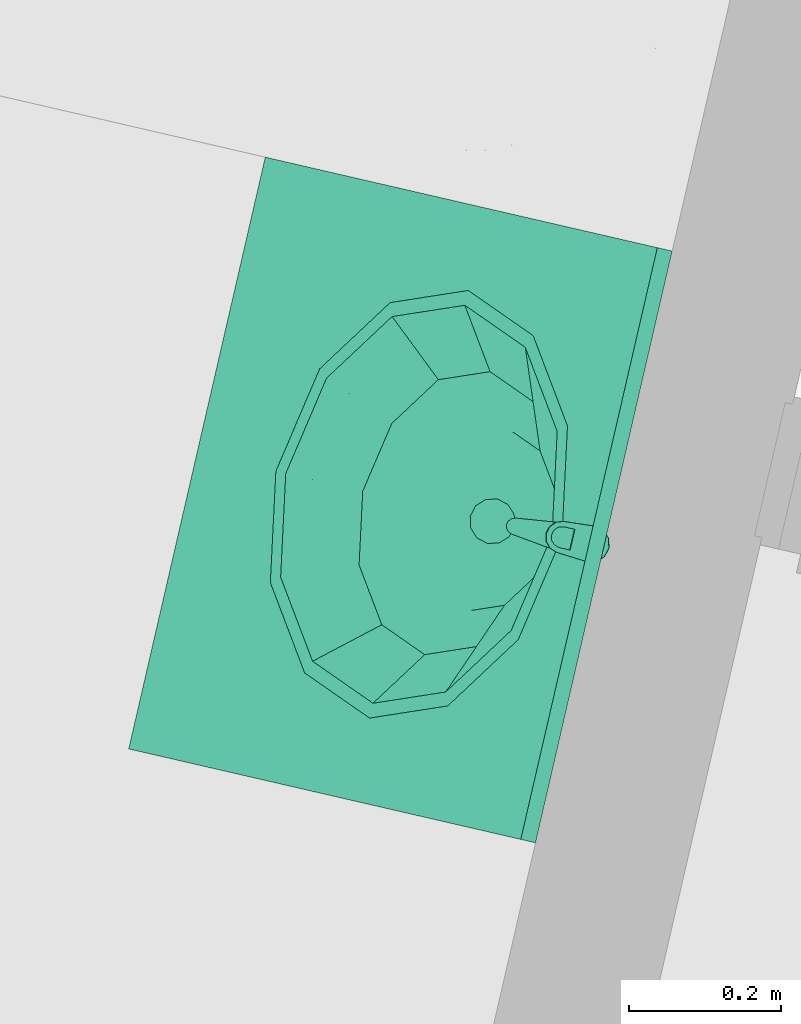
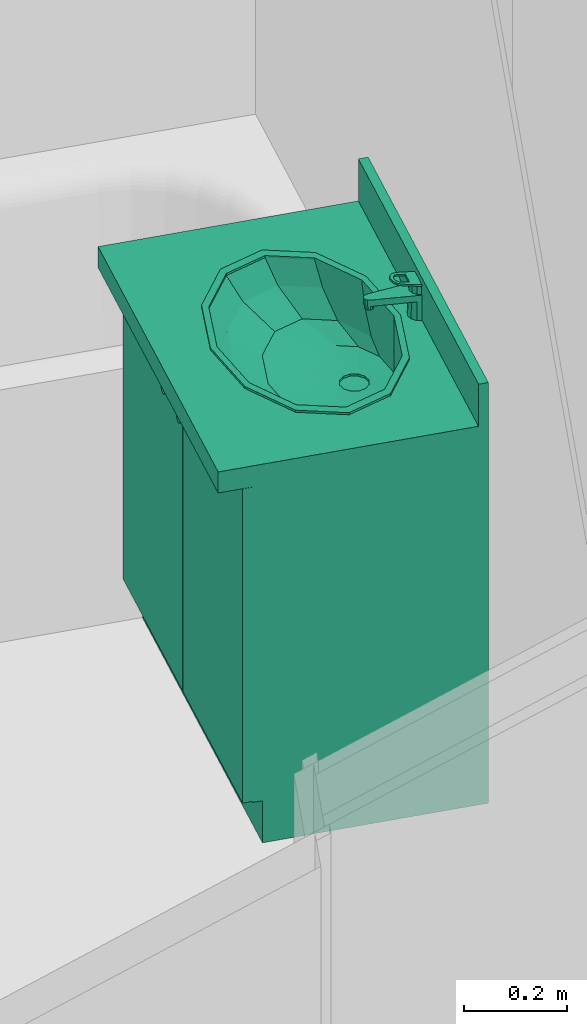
# One storey, part 44 of 62: 1 flow terminal.
"""IFC2X3 building model written with IfcOpenShell, lengths in metres."""

from ifc_helpers import new_model, entity, si_unit, converted_unit, derived_unit, money_unit, direction, frame, origin_with_axes, place, context, subcontext, project, spatial, open_shell, faceted_brep, surface_model, source, transform, mapped, type_object, element, save


model = new_model("IFC2X3")

# Units and contexts
model_context = context("Model", 3, precision=1e-05, world=origin_with_axes(), true_north=direction((0.0, 1.0)))
body_context = subcontext(model_context, "Body", "Model", "MODEL_VIEW")
ifc_project = project(units=[si_unit("LENGTHUNIT", "METRE"), si_unit("AREAUNIT", "SQUARE_METRE"), si_unit("VOLUMEUNIT", "CUBIC_METRE"), converted_unit("PLANEANGLEUNIT", "DEGREE", entity("IfcPlaneAngleMeasure", 0.0174532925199), si_unit("PLANEANGLEUNIT", "RADIAN"), dimensions=[0, 0, 0, 0, 0, 0, 0]), si_unit("SOLIDANGLEUNIT", "STERADIAN"), money_unit("EUR"), converted_unit("TIMEUNIT", "Year", entity("IfcTimeMeasure", 31556926.0), si_unit("TIMEUNIT", "SECOND"), dimensions=[0, 0, 1, 0, 0, 0, 0]), si_unit("MASSUNIT", "GRAM", prefix="KILO"), si_unit("THERMODYNAMICTEMPERATUREUNIT", "DEGREE_CELSIUS"), si_unit("LUMINOUSINTENSITYUNIT", "LUMEN"), si_unit("ENERGYUNIT", "JOULE", prefix="MEGA"), derived_unit("THERMALCONDUCTANCEUNIT", [(si_unit("POWERUNIT", "WATT"), 1), (si_unit("LENGTHUNIT", "METRE"), -1), (si_unit("THERMODYNAMICTEMPERATUREUNIT", "KELVIN"), -1)]), derived_unit("SPECIFICHEATCAPACITYUNIT", [(si_unit("ENERGYUNIT", "JOULE"), 1), (si_unit("MASSUNIT", "GRAM", prefix="KILO"), -1), (si_unit("THERMODYNAMICTEMPERATUREUNIT", "KELVIN"), -1)]), derived_unit("MASSDENSITYUNIT", [(si_unit("MASSUNIT", "GRAM", prefix="KILO"), 1), (si_unit("VOLUMEUNIT", "CUBIC_METRE"), -1)])], contexts=[model_context])

# Site, building, storey
site_placement = place(None, origin_with_axes())
site = spatial("IfcSite", under=ifc_project, at=site_placement, Name="Site", CompositionType="ELEMENT")
building_placement = place(site_placement, origin_with_axes())
building = spatial("IfcBuilding", under=site, at=building_placement, Name="Bâtiment", CompositionType="ELEMENT")
storey_placement = place(building_placement, frame((0.0, 0.0, 8.16), z_axis=(0.0, 0.0, 1.0), x_axis=(1.0, 0.0, 0.0)))
storey = spatial("IfcBuildingStorey", under=building, at=storey_placement, Name="R+3", CompositionType="ELEMENT", Elevation=8.16)

# Flow terminal
sanitary_terminal_type = type_object("IfcSanitaryTerminalType", Name="Lavabo sur meuble 23", PredefinedType="NOTDEFINED")
shared_shape = source(origin_with_axes(), body_context, "Body", "SurfaceModel", [
    faceted_brep([(0.0, 0.09, 0.0), (0.0, 0.09, 0.1), (-0.8, 0.09, 0.1), (-0.8, 0.09, 0.0), (0.0, 0.55, 0.0), (0.0, 0.55, 0.1), (-0.8, 0.55, 0.1), (-0.8, 0.55, 0.0)], [[[0, 1, 2, 3]], [[4, 5, 1, 0]], [[1, 5, 6, 2]], [[3, 2, 6, 7]], [[0, 3, 7, 4]], [[7, 6, 5, 4]]]),
    faceted_brep([(0.0, 0.07, 0.1), (0.0, 0.07, 0.12), (-0.02, 0.07, 0.12), (-0.02, 0.07, 0.1), (0.0, 0.55, 0.1), (0.0, 0.55, 0.12), (-0.02, 0.55, 0.12), (-0.78, 0.55, 0.12), (-0.8, 0.55, 0.12), (-0.8, 0.07, 0.12), (-0.78, 0.07, 0.12), (-0.78, 0.07, 0.1), (-0.8, 0.07, 0.1), (-0.8, 0.55, 0.1), (-0.78, 0.55, 0.1), (-0.02, 0.55, 0.1)], [[[0, 1, 2, 3]], [[4, 5, 1, 0]], [[1, 5, 6, 7, 8, 9, 10, 2]], [[3, 2, 10, 11]], [[0, 3, 11, 12, 13, 14, 15, 4]], [[15, 6, 5, 4]], [[14, 7, 6, 15]], [[13, 8, 7, 14]], [[12, 9, 8, 13]], [[11, 10, 9, 12]]]),
    faceted_brep([(0.0, 0.07, 0.12), (0.0, 0.07, 0.85), (-0.02, 0.07, 0.85), (-0.02, 0.07, 0.12), (0.0, 0.55, 0.12), (0.0, 0.55, 0.85), (-0.8, 0.55, 0.85), (-0.8, 0.07, 0.85), (-0.78, 0.07, 0.85), (-0.78, 0.53, 0.85), (-0.02, 0.53, 0.85), (-0.02, 0.53, 0.12), (-0.78, 0.53, 0.12), (-0.78, 0.07, 0.12), (-0.8, 0.07, 0.12), (-0.8, 0.55, 0.12)], [[[0, 1, 2, 3]], [[4, 5, 1, 0]], [[1, 5, 6, 7, 8, 9, 10, 2]], [[3, 2, 10, 11]], [[0, 3, 11, 12, 13, 14, 15, 4]], [[15, 6, 5, 4]], [[14, 7, 6, 15]], [[13, 8, 7, 14]], [[12, 9, 8, 13]], [[11, 10, 9, 12]]]),
    faceted_brep([(-0.78, 0.07, 0.323333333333), (-0.78, 0.07, 0.343333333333), (-0.78, 0.53, 0.343333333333), (-0.78, 0.53, 0.323333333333), (-0.02, 0.07, 0.323333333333), (-0.02, 0.07, 0.343333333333), (-0.02, 0.53, 0.343333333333), (-0.02, 0.53, 0.323333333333)], [[[0, 1, 2, 3]], [[4, 5, 1, 0]], [[1, 5, 6, 2]], [[3, 2, 6, 7]], [[0, 3, 7, 4]], [[7, 6, 5, 4]]]),
    faceted_brep([(-0.78, 0.07, 0.566666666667), (-0.78, 0.07, 0.586666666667), (-0.78, 0.53, 0.586666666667), (-0.78, 0.53, 0.566666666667), (-0.02, 0.07, 0.566666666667), (-0.02, 0.07, 0.586666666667), (-0.02, 0.53, 0.586666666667), (-0.02, 0.53, 0.566666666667)], [[[0, 1, 2, 3]], [[4, 5, 1, 0]], [[1, 5, 6, 2]], [[3, 2, 6, 7]], [[0, 3, 7, 4]], [[7, 6, 5, 4]]]),
    faceted_brep([(0.0, 0.55, 0.85), (0.0, 0.0, 0.85), (-0.8, 0.0, 0.85), (-0.8, 0.55, 0.85), (-0.535, 0.144115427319, 0.85), (-0.4, 0.12, 0.85), (-0.265, 0.144115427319, 0.85), (-0.166173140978, 0.21, 0.85), (-0.13, 0.3, 0.85), (-0.166173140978, 0.39, 0.85), (-0.265, 0.455884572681, 0.85), (-0.4, 0.48, 0.85), (-0.535, 0.455884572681, 0.85), (-0.633826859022, 0.39, 0.85), (-0.67, 0.3, 0.85), (-0.633826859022, 0.21, 0.85), (0.0, 0.55, 0.9), (0.0, 0.0, 0.9), (-0.8, 0.0, 0.9), (-0.8, 0.55, 0.9), (-0.4, 0.12, 0.9), (-0.535, 0.144115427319, 0.9), (-0.265, 0.144115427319, 0.9), (-0.166173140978, 0.21, 0.9), (-0.13, 0.3, 0.9), (-0.166173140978, 0.39, 0.9), (-0.265, 0.455884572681, 0.9), (-0.4, 0.48, 0.9), (-0.535, 0.455884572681, 0.9), (-0.633826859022, 0.39, 0.9), (-0.67, 0.3, 0.9), (-0.633826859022, 0.21, 0.9)], [[[0, 1, 2, 3], [4, 5, 6, 7, 8, 9, 10, 11, 12, 13, 14, 15]], [[1, 0, 16, 17]], [[2, 1, 17, 18]], [[3, 2, 18, 19]], [[0, 3, 19, 16]], [[20, 5, 4, 21]], [[22, 6, 5, 20]], [[23, 7, 6, 22]], [[24, 8, 7, 23]], [[25, 9, 8, 24]], [[26, 10, 9, 25]], [[27, 11, 10, 26]], [[28, 12, 11, 27]], [[29, 13, 12, 28]], [[30, 14, 13, 29]], [[31, 15, 14, 30]], [[21, 4, 15, 31]], [[18, 17, 16, 19], [28, 27, 26, 25, 24, 23, 22, 20, 21, 31, 30, 29]]]),
    faceted_brep([(0.0, 0.53, 0.9), (0.0, 0.53, 1.0), (-0.8, 0.53, 1.0), (-0.8, 0.53, 0.9), (0.0, 0.55, 0.9), (0.0, 0.55, 1.0), (-0.8, 0.55, 1.0), (-0.8, 0.55, 0.9)], [[[0, 1, 2, 3]], [[4, 5, 1, 0]], [[1, 5, 6, 2]], [[3, 2, 6, 7]], [[0, 3, 7, 4]], [[7, 6, 5, 4]]]),
    faceted_brep([(-0.689, 0.3, 0.905), (-0.650281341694, 0.396691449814, 0.905), (-0.650281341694, 0.396691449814, 0.9), (-0.689, 0.3, 0.9), (-0.650281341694, 0.203308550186, 0.905), (-0.5445, 0.132525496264, 0.905), (-0.4, 0.106617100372, 0.905), (-0.2555, 0.132525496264, 0.905), (-0.149718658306, 0.203308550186, 0.905), (-0.111, 0.3, 0.905), (-0.149718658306, 0.396691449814, 0.905), (-0.2555, 0.467474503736, 0.905), (-0.4, 0.493382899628, 0.905), (-0.5445, 0.467474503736, 0.905), (-0.669, 0.3, 0.905), (-0.632960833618, 0.39, 0.905), (-0.5345, 0.455884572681, 0.905), (-0.4, 0.48, 0.905), (-0.2655, 0.455884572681, 0.905), (-0.167039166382, 0.39, 0.905), (-0.131, 0.3, 0.905), (-0.167039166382, 0.21, 0.905), (-0.2655, 0.144115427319, 0.905), (-0.4, 0.12, 0.905), (-0.5345, 0.144115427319, 0.905), (-0.632960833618, 0.21, 0.905), (-0.5445, 0.467474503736, 0.9), (-0.4, 0.493382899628, 0.9), (-0.2555, 0.467474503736, 0.9), (-0.149718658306, 0.396691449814, 0.9), (-0.111, 0.3, 0.9), (-0.149718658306, 0.203308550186, 0.9), (-0.2555, 0.132525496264, 0.9), (-0.4, 0.106617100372, 0.9), (-0.5445, 0.132525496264, 0.9), (-0.650281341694, 0.203308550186, 0.9), (-0.669, 0.3, 0.9), (-0.632960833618, 0.21, 0.9), (-0.5345, 0.144115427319, 0.9), (-0.4, 0.12, 0.9), (-0.2655, 0.144115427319, 0.9), (-0.167039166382, 0.21, 0.9), (-0.131, 0.3, 0.9), (-0.167039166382, 0.39, 0.9), (-0.2655, 0.455884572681, 0.9), (-0.4, 0.48, 0.9), (-0.5345, 0.455884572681, 0.9), (-0.632960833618, 0.39, 0.9)], [[[0, 1, 2, 3]], [[0, 4, 5, 6, 7, 8, 9, 10, 11, 12, 13, 1], [14, 15, 16, 17, 18, 19, 20, 21, 22, 23, 24, 25]], [[1, 13, 26, 2]], [[3, 2, 26, 27, 28, 29, 30, 31, 32, 33, 34, 35], [36, 37, 38, 39, 40, 41, 42, 43, 44, 45, 46, 47]], [[4, 0, 3, 35]], [[5, 4, 35, 34]], [[6, 5, 34, 33]], [[7, 6, 33, 32]], [[8, 7, 32, 31]], [[9, 8, 31, 30]], [[10, 9, 30, 29]], [[11, 10, 29, 28]], [[12, 11, 28, 27]], [[13, 12, 27, 26]], [[15, 14, 36, 47]], [[16, 15, 47, 46]], [[17, 16, 46, 45]], [[18, 17, 45, 44]], [[19, 18, 44, 43]], [[20, 19, 43, 42]], [[21, 20, 42, 41]], [[22, 21, 41, 40]], [[23, 22, 40, 39]], [[24, 23, 39, 38]], [[25, 24, 38, 37]], [[14, 25, 37, 36]]]),
    surface_model("IfcShellBasedSurfaceModel", [(-0.4, 0.48, 0.9), (-0.5345, 0.455884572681, 0.9), (-0.52105, 0.458296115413, 0.848), (-0.4, 0.48, 0.848), (-0.632960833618, 0.39, 0.9), (-0.609664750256, 0.399, 0.848), (-0.2655, 0.455884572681, 0.9), (-0.27895, 0.458296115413, 0.848), (-0.669, 0.3, 0.9), (-0.6421, 0.318, 0.848), (-0.167039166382, 0.39, 0.9), (-0.190335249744, 0.399, 0.848), (-0.632960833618, 0.21, 0.9), (-0.609664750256, 0.237, 0.848), (-0.131, 0.3, 0.9), (-0.1579, 0.318, 0.848), (-0.5345, 0.144115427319, 0.9), (-0.52105, 0.177703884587, 0.848), (-0.167039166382, 0.21, 0.9), (-0.190335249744, 0.237, 0.848), (-0.4, 0.12, 0.9), (-0.4, 0.156, 0.848), (-0.2655, 0.144115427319, 0.9), (-0.27895, 0.177703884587, 0.848)], [open_shell([[[0, 1, 2, 3]], [[1, 4, 5, 2]], [[6, 0, 3, 7]], [[4, 8, 9, 5]], [[10, 6, 7, 11]], [[8, 12, 13, 9]], [[14, 10, 11, 15]], [[12, 16, 17, 13]], [[18, 14, 15, 19]], [[16, 20, 21, 17]], [[22, 18, 19, 23]], [[20, 22, 23, 21]]])]),
    surface_model("IfcShellBasedSurfaceModel", [(-0.4, 0.48, 0.848), (-0.52105, 0.458296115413, 0.848), (-0.4956295, 0.462853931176, 0.796), (-0.4, 0.48, 0.796), (-0.609664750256, 0.399, 0.848), (-0.565635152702, 0.41601, 0.796), (-0.27895, 0.458296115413, 0.848), (-0.3043705, 0.462853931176, 0.796), (-0.6421, 0.318, 0.848), (-0.591259, 0.35202, 0.796), (-0.190335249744, 0.399, 0.848), (-0.234364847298, 0.41601, 0.796), (-0.609664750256, 0.237, 0.848), (-0.565635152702, 0.28803, 0.796), (-0.1579, 0.318, 0.848), (-0.208741, 0.35202, 0.796), (-0.52105, 0.177703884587, 0.848), (-0.4956295, 0.241186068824, 0.796), (-0.190335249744, 0.237, 0.848), (-0.234364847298, 0.28803, 0.796), (-0.4, 0.156, 0.848), (-0.4, 0.22404, 0.796), (-0.27895, 0.177703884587, 0.848), (-0.3043705, 0.241186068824, 0.796)], [open_shell([[[0, 1, 2, 3]], [[1, 4, 5, 2]], [[6, 0, 3, 7]], [[4, 8, 9, 5]], [[10, 6, 7, 11]], [[8, 12, 13, 9]], [[14, 10, 11, 15]], [[12, 16, 17, 13]], [[18, 14, 15, 19]], [[16, 20, 21, 17]], [[22, 18, 19, 23]], [[20, 22, 23, 21]]])]),
    surface_model("IfcShellBasedSurfaceModel", [(-0.4, 0.48, 0.796), (-0.4956295, 0.462853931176, 0.796), (-0.460246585, 0.469197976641, 0.77), (-0.4, 0.48, 0.77), (-0.565635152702, 0.41601, 0.796), (-0.504350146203, 0.4396863, 0.77), (-0.3043705, 0.462853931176, 0.796), (-0.339753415, 0.469197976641, 0.77), (-0.591259, 0.35202, 0.796), (-0.52049317, 0.3993726, 0.77), (-0.234364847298, 0.41601, 0.796), (-0.295649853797, 0.4396863, 0.77), (-0.565635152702, 0.28803, 0.796), (-0.504350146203, 0.3590589, 0.77), (-0.208741, 0.35202, 0.796), (-0.27950683, 0.3993726, 0.77), (-0.4956295, 0.241186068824, 0.796), (-0.460246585, 0.329547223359, 0.77), (-0.234364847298, 0.28803, 0.796), (-0.295649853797, 0.3590589, 0.77), (-0.4, 0.22404, 0.796), (-0.4, 0.3187452, 0.77), (-0.3043705, 0.241186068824, 0.796), (-0.339753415, 0.329547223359, 0.77)], [open_shell([[[0, 1, 2, 3]], [[1, 4, 5, 2]], [[6, 0, 3, 7]], [[4, 8, 9, 5]], [[10, 6, 7, 11]], [[8, 12, 13, 9]], [[14, 10, 11, 15]], [[12, 16, 17, 13]], [[18, 14, 15, 19]], [[16, 20, 21, 17]], [[22, 18, 19, 23]], [[20, 22, 23, 21]]])]),
    surface_model("IfcShellBasedSurfaceModel", [(-0.4, 0.48, 0.77), (-0.460246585, 0.469197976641, 0.77), (-0.415, 0.425353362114, 0.763), (-0.425980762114, 0.4143726, 0.763), (-0.4, 0.4293726, 0.763), (-0.504350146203, 0.4396863, 0.77), (-0.339753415, 0.469197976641, 0.77), (-0.43, 0.3993726, 0.763), (-0.385, 0.425353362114, 0.763), (-0.52049317, 0.3993726, 0.77), (-0.295649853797, 0.4396863, 0.77), (-0.425980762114, 0.3843726, 0.763), (-0.374019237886, 0.4143726, 0.763), (-0.504350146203, 0.3590589, 0.77), (-0.27950683, 0.3993726, 0.77), (-0.415, 0.373391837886, 0.763), (-0.37, 0.3993726, 0.763), (-0.460246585, 0.329547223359, 0.77), (-0.295649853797, 0.3590589, 0.77), (-0.4, 0.3693726, 0.763), (-0.374019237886, 0.3843726, 0.763), (-0.4, 0.3187452, 0.77), (-0.339753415, 0.329547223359, 0.77), (-0.385, 0.373391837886, 0.763)], [open_shell([[[0, 1, 2]], [[1, 3, 2]], [[0, 2, 4]], [[1, 5, 3]], [[6, 0, 4]], [[5, 7, 3]], [[6, 4, 8]], [[5, 9, 7]], [[10, 6, 8]], [[9, 11, 7]], [[10, 8, 12]], [[9, 13, 11]], [[14, 10, 12]], [[13, 15, 11]], [[14, 12, 16]], [[13, 17, 15]], [[18, 14, 16]], [[17, 19, 15]], [[18, 16, 20]], [[17, 21, 19]], [[22, 18, 20]], [[21, 23, 19]], [[22, 20, 23]], [[21, 22, 23]]])]),
    surface_model("IfcShellBasedSurfaceModel", [(-0.43, 0.3993726, 0.763), (-0.425980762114, 0.4143726, 0.763), (-0.425980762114, 0.4143726, 0.758), (-0.43, 0.3993726, 0.758), (-0.415, 0.425353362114, 0.763), (-0.415, 0.425353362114, 0.758), (-0.4, 0.4293726, 0.758), (-0.385, 0.425353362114, 0.758), (-0.374019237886, 0.4143726, 0.758), (-0.37, 0.3993726, 0.758), (-0.374019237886, 0.3843726, 0.758), (-0.385, 0.373391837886, 0.758), (-0.4, 0.3693726, 0.758), (-0.415, 0.373391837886, 0.758), (-0.425980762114, 0.3843726, 0.758), (-0.425980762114, 0.3843726, 0.763), (-0.4, 0.4293726, 0.763), (-0.385, 0.425353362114, 0.763), (-0.374019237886, 0.4143726, 0.763), (-0.37, 0.3993726, 0.763), (-0.374019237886, 0.3843726, 0.763), (-0.385, 0.373391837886, 0.763), (-0.4, 0.3693726, 0.763), (-0.415, 0.373391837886, 0.763)], [open_shell([[[0, 1, 2, 3]], [[1, 4, 5, 2]], [[3, 2, 5, 6, 7, 8, 9, 10, 11, 12, 13, 14]], [[15, 0, 3, 14]], [[4, 16, 6, 5]], [[16, 17, 7, 6]], [[17, 18, 8, 7]], [[18, 19, 9, 8]], [[19, 20, 10, 9]], [[20, 21, 11, 10]], [[21, 22, 12, 11]], [[22, 23, 13, 12]], [[23, 15, 14, 13]]])]),
    faceted_brep([(-0.4125, 0.554150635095, 0.9), (-0.410587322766, 0.550837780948, 0.976507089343), (-0.4, 0.553701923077, 0.975961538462), (-0.4, 0.5575, 0.9), (-0.421650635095, 0.545, 0.9), (-0.418273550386, 0.543050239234, 0.977990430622), (-0.421, 0.5325, 0.98), (-0.418100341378, 0.522049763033, 0.981990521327), (-0.410414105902, 0.514462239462, 0.983435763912), (-0.4, 0.511698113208, 0.983962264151), (-0.389585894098, 0.514462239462, 0.983435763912), (-0.381899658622, 0.522049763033, 0.981990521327), (-0.379, 0.5325, 0.98), (-0.381726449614, 0.543050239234, 0.977990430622), (-0.389412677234, 0.550837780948, 0.976507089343), (-0.3875, 0.554150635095, 0.9), (-0.378349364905, 0.545, 0.9), (-0.375, 0.5325, 0.9), (-0.378349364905, 0.52, 0.9), (-0.3875, 0.510849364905, 0.9), (-0.4, 0.5075, 0.9), (-0.4125, 0.510849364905, 0.9), (-0.421650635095, 0.52, 0.9), (-0.425, 0.5325, 0.9)], [[[0, 1, 2, 3]], [[4, 5, 1, 0]], [[1, 5, 6, 7, 8, 9, 10, 11, 12, 13, 14, 2]], [[3, 2, 14, 15]], [[0, 3, 15, 16, 17, 18, 19, 20, 21, 22, 23, 4]], [[23, 6, 5, 4]], [[22, 7, 6, 23]], [[21, 8, 7, 22]], [[20, 9, 8, 21]], [[19, 10, 9, 20]], [[18, 11, 10, 19]], [[17, 12, 11, 18]], [[16, 13, 12, 17]], [[15, 14, 13, 16]]]),
    faceted_brep([(-0.409, 0.4295, 0.935), (-0.409, 0.4295, 0.945), (-0.407794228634, 0.434, 0.945), (-0.407794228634, 0.434, 0.935), (-0.407794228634, 0.425, 0.935), (-0.407794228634, 0.425, 0.945), (-0.4045, 0.421705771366, 0.945), (-0.4, 0.4205, 0.945), (-0.3955, 0.421705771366, 0.945), (-0.392205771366, 0.425, 0.945), (-0.391, 0.4295, 0.945), (-0.392205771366, 0.434, 0.945), (-0.3955, 0.437294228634, 0.945), (-0.4, 0.4385, 0.945), (-0.4045, 0.437294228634, 0.945), (-0.4045, 0.437294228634, 0.935), (-0.4, 0.4385, 0.935), (-0.3955, 0.437294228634, 0.935), (-0.392205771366, 0.434, 0.935), (-0.391, 0.4295, 0.935), (-0.392205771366, 0.425, 0.935), (-0.3955, 0.421705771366, 0.935), (-0.4, 0.4205, 0.935), (-0.4045, 0.421705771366, 0.935)], [[[0, 1, 2, 3]], [[4, 5, 1, 0]], [[1, 5, 6, 7, 8, 9, 10, 11, 12, 13, 14, 2]], [[3, 2, 14, 15]], [[0, 3, 15, 16, 17, 18, 19, 20, 21, 22, 23, 4]], [[23, 6, 5, 4]], [[22, 7, 6, 23]], [[21, 8, 7, 22]], [[20, 9, 8, 21]], [[19, 10, 9, 20]], [[18, 11, 10, 19]], [[17, 12, 11, 18]], [[16, 13, 12, 17]], [[15, 14, 13, 16]]]),
    faceted_brep([(-0.387128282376, 0.552756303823, 0.96), (-0.40000000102, 0.556499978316, 0.96), (-0.412871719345, 0.552756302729, 0.96), (-0.421727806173, 0.542693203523, 0.96), (-0.423805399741, 0.529450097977, 0.96), (-0.410912, 0.4281117, 0.96), (-0.409028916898, 0.423216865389, 0.96), (-0.405093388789, 0.419750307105, 0.96), (-0.400000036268, 0.41850003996, 0.96), (-0.394906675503, 0.419750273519, 0.96), (-0.390971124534, 0.423216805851, 0.96), (-0.389088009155, 0.428111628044, 0.96), (-0.3761946, 0.5294501, 0.96), (-0.378272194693, 0.54269320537, 0.96), (-0.411, 0.551552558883, 0.96), (-0.4, 0.5545, 0.96), (-0.389, 0.551552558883, 0.96), (-0.380947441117, 0.5435, 0.96), (-0.378, 0.5325, 0.96), (-0.380947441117, 0.5215, 0.96), (-0.389, 0.513447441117, 0.96), (-0.4, 0.5105, 0.96), (-0.411, 0.513447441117, 0.96), (-0.419052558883, 0.5215, 0.96), (-0.422, 0.5325, 0.96), (-0.419052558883, 0.5435, 0.96), (-0.387128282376, 0.552756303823, 0.945), (-0.40000000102, 0.556499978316, 0.945), (-0.412871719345, 0.552756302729, 0.945), (-0.421727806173, 0.542693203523, 0.945), (-0.423805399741, 0.529450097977, 0.945), (-0.410912, 0.4281117, 0.945), (-0.409028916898, 0.423216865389, 0.945), (-0.405093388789, 0.419750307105, 0.945), (-0.400000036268, 0.41850003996, 0.945), (-0.394906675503, 0.419750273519, 0.945), (-0.390971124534, 0.423216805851, 0.945), (-0.389088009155, 0.428111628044, 0.945), (-0.3761946, 0.5294501, 0.945), (-0.378272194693, 0.54269320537, 0.945), (-0.4, 0.55525, 0.945), (-0.411375, 0.552202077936, 0.945), (-0.388625, 0.552202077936, 0.945), (-0.380297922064, 0.543875, 0.945), (-0.37725, 0.5325, 0.945), (-0.380297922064, 0.521125, 0.945), (-0.388625, 0.512797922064, 0.945), (-0.4, 0.50975, 0.945), (-0.411375, 0.512797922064, 0.945), (-0.419702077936, 0.521125, 0.945), (-0.42275, 0.5325, 0.945), (-0.419702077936, 0.543875, 0.945)], [[[0, 1, 2, 3, 4, 5, 6, 7, 8, 9, 10, 11, 12, 13], [14, 15, 16, 17, 18, 19, 20, 21, 22, 23, 24, 25]], [[26, 27, 1, 0]], [[27, 28, 2, 1]], [[28, 29, 3, 2]], [[29, 30, 4, 3]], [[30, 31, 5, 4]], [[31, 32, 6, 5]], [[32, 33, 7, 6]], [[33, 34, 8, 7]], [[34, 35, 9, 8]], [[35, 36, 10, 9]], [[36, 37, 11, 10]], [[37, 38, 12, 11]], [[38, 39, 13, 12]], [[39, 26, 0, 13]], [[40, 15, 14, 41]], [[42, 16, 15, 40]], [[16, 42, 43, 17]], [[17, 43, 44, 18]], [[18, 44, 45, 19]], [[19, 45, 46, 20]], [[20, 46, 47, 21]], [[48, 22, 21, 47]], [[49, 23, 22, 48]], [[50, 24, 23, 49]], [[51, 25, 24, 50]], [[41, 14, 25, 51]], [[34, 33, 32, 31, 30, 29, 28, 27, 26, 39, 38, 37, 36, 35], [48, 47, 46, 45, 44, 43, 42, 40, 41, 51, 50, 49]]]),
    faceted_brep([(-0.423893, 0.53080743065, 0.980322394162), (-0.423893, 0.531555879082, 0.984251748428), (-0.421296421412, 0.544023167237, 0.981877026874), (-0.421296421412, 0.543274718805, 0.977947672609), (-0.420945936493, 0.490663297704, 0.987968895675), (-0.420945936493, 0.491411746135, 0.991898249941), (-0.417663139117, 0.48173408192, 0.993741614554), (-0.410061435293, 0.47478470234, 0.995065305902), (-0.399999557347, 0.472262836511, 0.995545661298), (-0.389937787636, 0.474785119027, 0.995065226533), (-0.382336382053, 0.481734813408, 0.993741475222), (-0.379054, 0.491412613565, 0.991898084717), (-0.376106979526, 0.531556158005, 0.984251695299), (-0.378703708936, 0.544023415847, 0.98187697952), (-0.38752831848, 0.553339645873, 0.980102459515), (-0.400000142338, 0.556780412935, 0.979447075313), (-0.41247192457, 0.553339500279, 0.980102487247), (-0.414, 0.507707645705, 0.988794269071), (-0.386, 0.507707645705, 0.988794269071), (-0.386, 0.492892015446, 0.991616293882), (-0.387875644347, 0.486015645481, 0.992926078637), (-0.393, 0.480981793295, 0.993884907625), (-0.4, 0.479139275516, 0.994235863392), (-0.407, 0.480981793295, 0.993884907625), (-0.412124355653, 0.486015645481, 0.992926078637), (-0.414, 0.492892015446, 0.991616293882), (-0.41247192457, 0.552591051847, 0.976173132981), (-0.400000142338, 0.556031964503, 0.975517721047), (-0.38752831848, 0.552591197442, 0.976173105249), (-0.378703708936, 0.543274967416, 0.977947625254), (-0.376106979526, 0.530807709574, 0.980322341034), (-0.379054, 0.490664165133, 0.987968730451), (-0.382336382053, 0.480986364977, 0.989812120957), (-0.389937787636, 0.474036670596, 0.991135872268), (-0.399999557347, 0.47151438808, 0.991616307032), (-0.410061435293, 0.474036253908, 0.991135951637), (-0.417663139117, 0.480985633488, 0.989812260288), (-0.414, 0.506959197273, 0.984864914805), (-0.414, 0.492143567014, 0.987686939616), (-0.412124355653, 0.485267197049, 0.988996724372), (-0.407, 0.480233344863, 0.989955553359), (-0.4, 0.478390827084, 0.990306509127), (-0.393, 0.480233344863, 0.989955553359), (-0.387875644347, 0.485267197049, 0.988996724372), (-0.386, 0.492143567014, 0.987686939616), (-0.386, 0.506959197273, 0.984864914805)], [[[0, 1, 2, 3]], [[4, 5, 1, 0]], [[1, 5, 6, 7, 8, 9, 10, 11, 12, 13, 14, 15, 16, 2], [17, 18, 19, 20, 21, 22, 23, 24, 25]], [[3, 2, 16, 26]], [[0, 3, 26, 27, 28, 29, 30, 31, 32, 33, 34, 35, 36, 4], [37, 38, 39, 40, 41, 42, 43, 44, 45]], [[36, 6, 5, 4]], [[35, 7, 6, 36]], [[34, 8, 7, 35]], [[33, 9, 8, 34]], [[32, 10, 9, 33]], [[31, 11, 10, 32]], [[30, 12, 11, 31]], [[29, 13, 12, 30]], [[28, 14, 13, 29]], [[27, 15, 14, 28]], [[26, 16, 15, 27]], [[45, 18, 17, 37]], [[44, 19, 18, 45]], [[43, 20, 19, 44]], [[42, 21, 20, 43]], [[41, 22, 21, 42]], [[40, 23, 22, 41]], [[39, 24, 23, 40]], [[38, 25, 24, 39]], [[37, 17, 25, 38]]]),
    faceted_brep([(-0.0015, 0.07, 0.1015), (-0.0015, 0.05, 0.1015), (-0.3985, 0.05, 0.1015), (-0.3985, 0.07, 0.1015), (-0.0015, 0.07, 0.8485), (-0.0015, 0.05, 0.8485), (-0.3985, 0.05, 0.8485), (-0.3985, 0.07, 0.8485)], [[[0, 1, 2, 3]], [[4, 5, 1, 0]], [[1, 5, 6, 2]], [[3, 2, 6, 7]], [[0, 3, 7, 4]], [[7, 6, 5, 4]]]),
    faceted_brep([(-0.358892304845, 0.05, 0.7855), (-0.3605, 0.05, 0.7915), (-0.358892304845, 0.05, 0.7975), (-0.3545, 0.05, 0.801892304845), (-0.3485, 0.05, 0.8035), (-0.3425, 0.05, 0.801892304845), (-0.338107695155, 0.05, 0.7975), (-0.3365, 0.05, 0.7915), (-0.338107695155, 0.05, 0.7855), (-0.3425, 0.05, 0.781107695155), (-0.3485, 0.05, 0.7795), (-0.3545, 0.05, 0.781107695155), (-0.358892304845, 0.025, 0.7855), (-0.3605, 0.025, 0.7915), (-0.358892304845, 0.025, 0.7975), (-0.3545, 0.025, 0.801892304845), (-0.3485, 0.025, 0.8035), (-0.3425, 0.025, 0.801892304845), (-0.338107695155, 0.025, 0.7975), (-0.3365, 0.025, 0.7915), (-0.338107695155, 0.025, 0.7855), (-0.3425, 0.025, 0.781107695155), (-0.3485, 0.025, 0.7795), (-0.3545, 0.025, 0.781107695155)], [[[0, 1, 2, 3, 4, 5, 6, 7, 8, 9, 10, 11]], [[0, 12, 13, 1]], [[1, 13, 14, 2]], [[2, 14, 15, 3]], [[3, 15, 16, 4]], [[4, 16, 17, 5]], [[5, 17, 18, 6]], [[6, 18, 19, 7]], [[7, 19, 20, 8]], [[8, 20, 21, 9]], [[9, 21, 22, 10]], [[10, 22, 23, 11]], [[11, 23, 12, 0]], [[12, 23, 22, 21, 20, 19, 18, 17, 16, 15, 14, 13]]]),
    faceted_brep([(-0.7985, 0.07, 0.1015), (-0.4015, 0.07, 0.1015), (-0.4015, 0.05, 0.1015), (-0.7985, 0.05, 0.1015), (-0.7985, 0.07, 0.8485), (-0.4015, 0.07, 0.8485), (-0.4015, 0.05, 0.8485), (-0.7985, 0.05, 0.8485)], [[[0, 1, 2, 3]], [[0, 4, 5, 1]], [[1, 5, 6, 2]], [[3, 2, 6, 7]], [[4, 0, 3, 7]], [[5, 4, 7, 6]]]),
    faceted_brep([(-0.441107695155, 0.05, 0.7855), (-0.4455, 0.05, 0.781107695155), (-0.4515, 0.05, 0.7795), (-0.4575, 0.05, 0.781107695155), (-0.461892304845, 0.05, 0.7855), (-0.4635, 0.05, 0.7915), (-0.461892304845, 0.05, 0.7975), (-0.4575, 0.05, 0.801892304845), (-0.4515, 0.05, 0.8035), (-0.4455, 0.05, 0.801892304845), (-0.441107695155, 0.05, 0.7975), (-0.4395, 0.05, 0.7915), (-0.441107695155, 0.025, 0.7855), (-0.4455, 0.025, 0.781107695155), (-0.4515, 0.025, 0.7795), (-0.4575, 0.025, 0.781107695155), (-0.461892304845, 0.025, 0.7855), (-0.4635, 0.025, 0.7915), (-0.461892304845, 0.025, 0.7975), (-0.4575, 0.025, 0.801892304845), (-0.4515, 0.025, 0.8035), (-0.4455, 0.025, 0.801892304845), (-0.441107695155, 0.025, 0.7975), (-0.4395, 0.025, 0.7915)], [[[0, 1, 2, 3, 4, 5, 6, 7, 8, 9, 10, 11]], [[1, 0, 12, 13]], [[2, 1, 13, 14]], [[3, 2, 14, 15]], [[4, 3, 15, 16]], [[5, 4, 16, 17]], [[6, 5, 17, 18]], [[7, 6, 18, 19]], [[8, 7, 19, 20]], [[9, 8, 20, 21]], [[10, 9, 21, 22]], [[11, 10, 22, 23]], [[0, 11, 23, 12]], [[12, 23, 22, 21, 20, 19, 18, 17, 16, 15, 14, 13]]]),
])
flow_terminal_placement = place(storey_placement, frame((-13.5309630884, -8.88139237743, 0.0), z_axis=(0.0, 0.0, 1.0), x_axis=(-0.224876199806, -0.974387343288, 0.0)))
element("IfcFlowTerminal", 1, at=flow_terminal_placement, inside=storey, type_object=sanitary_terminal_type, Name="MOB-002", ObjectType="SANITARY_TERMINAL", context=body_context, shape_type="MappedRepresentation", body=[
    mapped(shared_shape, transform((0.0, 0.0, 0.0))),
])

save(model, "model.ifc")
